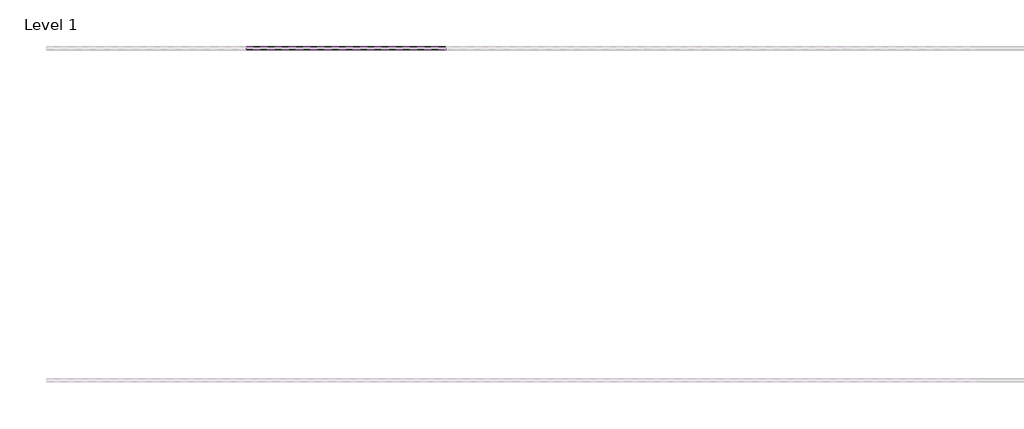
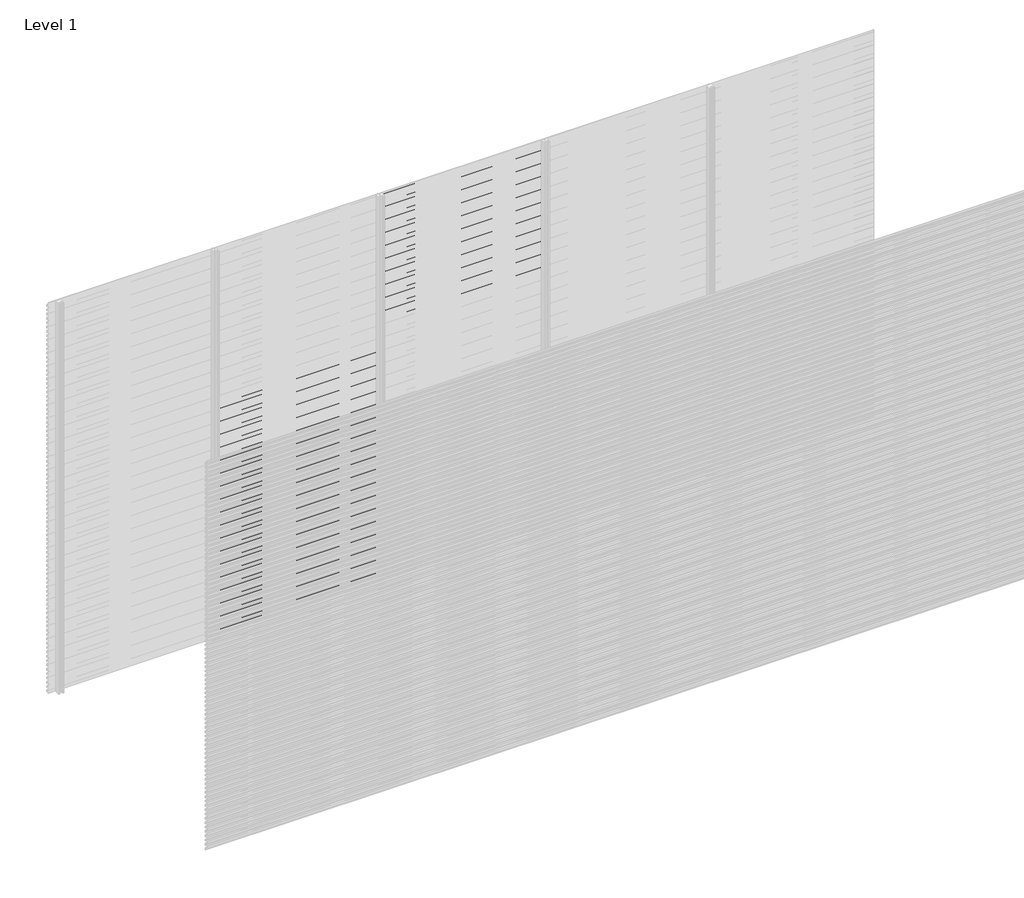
# One storey, part 76 of 507: 84 proxies.
"""IFC4 building model written with IfcOpenShell, lengths in millimetres."""

from ifc_helpers import new_model, si_unit, frame, origin, place, context, project, spatial, polyline, outline, extrude, element, save

model = new_model("IFC4")

# Units and contexts
model_context = context("Model", 3, world=origin())
ifc_project = project(units=[si_unit("LENGTHUNIT", "METRE", prefix="MILLI")], contexts=[model_context])

# Site, building, storey
site = spatial("IfcSite", under=ifc_project)
building = spatial("IfcBuilding", under=site)
storey = spatial("IfcBuildingStorey", under=building, Name="Level 1", Elevation=0.0)

# Proxies
placement = place(None, origin())
element("IfcBuildingElementProxy", 1, Name="Wall Sweeps", at=placement, inside=storey, context=model_context, shape_type="SweptSolid", body=[
    extrude(outline(polyline([(59003.4540136, 1774.2), (59003.4540136, 1760.7), (59002.2040136, 1761.4216933), (59002.2040136, 1773.4782281), (58983.0540136, 1784.5345698), (58983.0540136, 1798.2), (58984.3040136, 1798.2), (58984.3040136, 1785.2562577), (59003.4540136, 1774.2)])), frame((46166.6208099, 0.0, 0.0), z_axis=(1.0, 0.0, 0.0), x_axis=(0.0, 1.0, 0.0)), (0.0, 0.0, 1.0), 1199.9999999),
])
element("IfcBuildingElementProxy", 2, Name="Wall Sweeps", at=placement, inside=storey, context=model_context, shape_type="SweptSolid", body=[
    extrude(outline(polyline([(59003.4540136, 1740.9), (59003.4540136, 1727.4), (59002.2040136, 1728.1216933), (59002.2040136, 1740.1782281), (58983.0540136, 1751.2345698), (58983.0540136, 1764.9), (58984.3040136, 1764.9), (58984.3040136, 1751.9562577), (59003.4540136, 1740.9)])), frame((46166.6208099, 0.0, 0.0), z_axis=(1.0, 0.0, 0.0), x_axis=(0.0, 1.0, 0.0)), (0.0, 0.0, 1.0), 1199.9999999),
])
element("IfcBuildingElementProxy", 3, Name="Wall Sweeps", at=placement, inside=storey, context=model_context, shape_type="SweptSolid", body=[
    extrude(outline(polyline([(59003.4540136, 1707.6), (59003.4540136, 1694.1), (59002.2040136, 1694.8216933), (59002.2040136, 1706.8782281), (58983.0540136, 1717.9345698), (58983.0540136, 1731.6), (58984.3040136, 1731.6), (58984.3040136, 1718.6562577), (59003.4540136, 1707.6)])), frame((46166.6208099, 0.0, 0.0), z_axis=(1.0, 0.0, 0.0), x_axis=(0.0, 1.0, 0.0)), (0.0, 0.0, 1.0), 1199.9999999),
])
element("IfcBuildingElementProxy", 4, Name="Wall Sweeps", at=placement, inside=storey, context=model_context, shape_type="SweptSolid", body=[
    extrude(outline(polyline([(59003.4540136, 1674.3), (59003.4540136, 1660.8), (59002.2040136, 1661.5216933), (59002.2040136, 1673.5782281), (58983.0540136, 1684.6345698), (58983.0540136, 1698.3), (58984.3040136, 1698.3), (58984.3040136, 1685.3562577), (59003.4540136, 1674.3)])), frame((46166.6208099, 0.0, 0.0), z_axis=(1.0, 0.0, 0.0), x_axis=(0.0, 1.0, 0.0)), (0.0, 0.0, 1.0), 1199.9999999),
])
element("IfcBuildingElementProxy", 5, Name="Wall Sweeps", at=placement, inside=storey, context=model_context, shape_type="SweptSolid", body=[
    extrude(outline(polyline([(59003.4540136, 1641.0), (59003.4540136, 1627.5), (59002.2040136, 1628.2216933), (59002.2040136, 1640.2782281), (58983.0540136, 1651.3345698), (58983.0540136, 1665.0), (58984.3040136, 1665.0), (58984.3040136, 1652.0562577), (59003.4540136, 1641.0)])), frame((46166.6208099, 0.0, 0.0), z_axis=(1.0, 0.0, 0.0), x_axis=(0.0, 1.0, 0.0)), (0.0, 0.0, 1.0), 1199.9999999),
])
element("IfcBuildingElementProxy", 6, Name="Wall Sweeps", at=placement, inside=storey, context=model_context, shape_type="SweptSolid", body=[
    extrude(outline(polyline([(59003.4540136, 1607.7), (59003.4540136, 1594.2), (59002.2040136, 1594.9216933), (59002.2040136, 1606.9782281), (58983.0540136, 1618.0345698), (58983.0540136, 1631.7), (58984.3040136, 1631.7), (58984.3040136, 1618.7562577), (59003.4540136, 1607.7)])), frame((46166.6208099, 0.0, 0.0), z_axis=(1.0, 0.0, 0.0), x_axis=(0.0, 1.0, 0.0)), (0.0, 0.0, 1.0), 1199.9999999),
])
element("IfcBuildingElementProxy", 7, Name="Wall Sweeps", at=placement, inside=storey, context=model_context, shape_type="SweptSolid", body=[
    extrude(outline(polyline([(59003.4540136, 1574.4), (59003.4540136, 1560.9), (59002.2040136, 1561.6216933), (59002.2040136, 1573.6782281), (58983.0540136, 1584.7345698), (58983.0540136, 1598.4), (58984.3040136, 1598.4), (58984.3040136, 1585.4562577), (59003.4540136, 1574.4)])), frame((46166.6208099, 0.0, 0.0), z_axis=(1.0, 0.0, 0.0), x_axis=(0.0, 1.0, 0.0)), (0.0, 0.0, 1.0), 1199.9999999),
])
element("IfcBuildingElementProxy", 8, Name="Wall Sweeps", at=placement, inside=storey, context=model_context, shape_type="SweptSolid", body=[
    extrude(outline(polyline([(59003.4540136, 1541.1), (59003.4540136, 1527.6), (59002.2040136, 1528.3216933), (59002.2040136, 1540.3782281), (58983.0540136, 1551.4345698), (58983.0540136, 1565.1), (58984.3040136, 1565.1), (58984.3040136, 1552.1562577), (59003.4540136, 1541.1)])), frame((46166.6208099, 0.0, 0.0), z_axis=(1.0, 0.0, 0.0), x_axis=(0.0, 1.0, 0.0)), (0.0, 0.0, 1.0), 1199.9999999),
])
element("IfcBuildingElementProxy", 9, Name="Wall Sweeps", at=placement, inside=storey, context=model_context, shape_type="SweptSolid", body=[
    extrude(outline(polyline([(59003.4540136, 1507.8), (59003.4540136, 1494.3), (59002.2040136, 1495.0216933), (59002.2040136, 1507.0782281), (58983.0540136, 1518.1345698), (58983.0540136, 1531.8), (58984.3040136, 1531.8), (58984.3040136, 1518.8562577), (59003.4540136, 1507.8)])), frame((46166.6208099, 0.0, 0.0), z_axis=(1.0, 0.0, 0.0), x_axis=(0.0, 1.0, 0.0)), (0.0, 0.0, 1.0), 1199.9999999),
])
element("IfcBuildingElementProxy", 10, Name="Wall Sweeps", at=placement, inside=storey, context=model_context, shape_type="SweptSolid", body=[
    extrude(outline(polyline([(59003.4540136, 1474.5), (59003.4540136, 1461.0), (59002.2040136, 1461.7216933), (59002.2040136, 1473.7782281), (58983.0540136, 1484.8345698), (58983.0540136, 1498.5), (58984.3040136, 1498.5), (58984.3040136, 1485.5562577), (59003.4540136, 1474.5)])), frame((46166.6208099, 0.0, 0.0), z_axis=(1.0, 0.0, 0.0), x_axis=(0.0, 1.0, 0.0)), (0.0, 0.0, 1.0), 1199.9999999),
])
element("IfcBuildingElementProxy", 11, Name="Wall Sweeps", at=placement, inside=storey, context=model_context, shape_type="SweptSolid", body=[
    extrude(outline(polyline([(59003.4540136, 1441.2), (59003.4540136, 1427.7), (59002.2040136, 1428.4216933), (59002.2040136, 1440.4782281), (58983.0540136, 1451.5345698), (58983.0540136, 1465.2), (58984.3040136, 1465.2), (58984.3040136, 1452.2562577), (59003.4540136, 1441.2)])), frame((46166.6208099, 0.0, 0.0), z_axis=(1.0, 0.0, 0.0), x_axis=(0.0, 1.0, 0.0)), (0.0, 0.0, 1.0), 1199.9999999),
])
element("IfcBuildingElementProxy", 12, Name="Wall Sweeps", at=placement, inside=storey, context=model_context, shape_type="SweptSolid", body=[
    extrude(outline(polyline([(59003.4540136, 1407.9), (59003.4540136, 1394.4), (59002.2040136, 1395.1216933), (59002.2040136, 1407.1782281), (58983.0540136, 1418.2345698), (58983.0540136, 1431.9), (58984.3040136, 1431.9), (58984.3040136, 1418.9562577), (59003.4540136, 1407.9)])), frame((46166.6208099, 0.0, 0.0), z_axis=(1.0, 0.0, 0.0), x_axis=(0.0, 1.0, 0.0)), (0.0, 0.0, 1.0), 1199.9999999),
])
element("IfcBuildingElementProxy", 13, Name="Wall Sweeps", at=placement, inside=storey, context=model_context, shape_type="SweptSolid", body=[
    extrude(outline(polyline([(59003.4540136, 1374.6), (59003.4540136, 1361.1), (59002.2040136, 1361.8216933), (59002.2040136, 1373.8782281), (58983.0540136, 1384.9345698), (58983.0540136, 1398.6), (58984.3040136, 1398.6), (58984.3040136, 1385.6562577), (59003.4540136, 1374.6)])), frame((46166.6208099, 0.0, 0.0), z_axis=(1.0, 0.0, 0.0), x_axis=(0.0, 1.0, 0.0)), (0.0, 0.0, 1.0), 1199.9999999),
])
element("IfcBuildingElementProxy", 14, Name="Wall Sweeps", at=placement, inside=storey, context=model_context, shape_type="SweptSolid", body=[
    extrude(outline(polyline([(59003.4540136, 1341.3), (59003.4540136, 1327.8), (59002.2040136, 1328.5216933), (59002.2040136, 1340.5782281), (58983.0540136, 1351.6345698), (58983.0540136, 1365.3), (58984.3040136, 1365.3), (58984.3040136, 1352.3562577), (59003.4540136, 1341.3)])), frame((46166.6208099, 0.0, 0.0), z_axis=(1.0, 0.0, 0.0), x_axis=(0.0, 1.0, 0.0)), (0.0, 0.0, 1.0), 1199.9999999),
])
element("IfcBuildingElementProxy", 15, Name="Wall Sweeps", at=placement, inside=storey, context=model_context, shape_type="SweptSolid", body=[
    extrude(outline(polyline([(59003.4540136, 1308.0), (59003.4540136, 1294.5), (59002.2040136, 1295.2216933), (59002.2040136, 1307.2782281), (58983.0540136, 1318.3345698), (58983.0540136, 1332.0), (58984.3040136, 1332.0), (58984.3040136, 1319.0562577), (59003.4540136, 1308.0)])), frame((46166.6208099, 0.0, 0.0), z_axis=(1.0, 0.0, 0.0), x_axis=(0.0, 1.0, 0.0)), (0.0, 0.0, 1.0), 1199.9999999),
])
element("IfcBuildingElementProxy", 16, Name="Wall Sweeps", at=placement, inside=storey, context=model_context, shape_type="SweptSolid", body=[
    extrude(outline(polyline([(59003.4540136, 1274.7), (59003.4540136, 1261.2), (59002.2040136, 1261.9216933), (59002.2040136, 1273.9782281), (58983.0540136, 1285.0345698), (58983.0540136, 1298.7), (58984.3040136, 1298.7), (58984.3040136, 1285.7562577), (59003.4540136, 1274.7)])), frame((46166.6208099, 0.0, 0.0), z_axis=(1.0, 0.0, 0.0), x_axis=(0.0, 1.0, 0.0)), (0.0, 0.0, 1.0), 1199.9999999),
])
element("IfcBuildingElementProxy", 17, Name="Wall Sweeps", at=placement, inside=storey, context=model_context, shape_type="SweptSolid", body=[
    extrude(outline(polyline([(59003.4540136, 1241.4), (59003.4540136, 1227.9), (59002.2040136, 1228.6216933), (59002.2040136, 1240.6782281), (58983.0540136, 1251.7345698), (58983.0540136, 1265.4), (58984.3040136, 1265.4), (58984.3040136, 1252.4562577), (59003.4540136, 1241.4)])), frame((46166.6208099, 0.0, 0.0), z_axis=(1.0, 0.0, 0.0), x_axis=(0.0, 1.0, 0.0)), (0.0, 0.0, 1.0), 1199.9999999),
])
element("IfcBuildingElementProxy", 18, Name="Wall Sweeps", at=placement, inside=storey, context=model_context, shape_type="SweptSolid", body=[
    extrude(outline(polyline([(59003.4540136, 1208.1), (59003.4540136, 1194.6), (59002.2040136, 1195.3216933), (59002.2040136, 1207.3782281), (58983.0540136, 1218.4345698), (58983.0540136, 1232.1), (58984.3040136, 1232.1), (58984.3040136, 1219.1562577), (59003.4540136, 1208.1)])), frame((46166.6208099, 0.0, 0.0), z_axis=(1.0, 0.0, 0.0), x_axis=(0.0, 1.0, 0.0)), (0.0, 0.0, 1.0), 1199.9999999),
])
element("IfcBuildingElementProxy", 19, Name="Wall Sweeps", at=placement, inside=storey, context=model_context, shape_type="SweptSolid", body=[
    extrude(outline(polyline([(59003.4540136, 1174.8), (59003.4540136, 1161.3), (59002.2040136, 1162.0216933), (59002.2040136, 1174.0782281), (58983.0540136, 1185.1345698), (58983.0540136, 1198.8), (58984.3040136, 1198.8), (58984.3040136, 1185.8562577), (59003.4540136, 1174.8)])), frame((46166.6208099, 0.0, 0.0), z_axis=(1.0, 0.0, 0.0), x_axis=(0.0, 1.0, 0.0)), (0.0, 0.0, 1.0), 1199.9999999),
])
element("IfcBuildingElementProxy", 20, Name="Wall Sweeps", at=placement, inside=storey, context=model_context, shape_type="SweptSolid", body=[
    extrude(outline(polyline([(59003.4540136, 1141.5), (59003.4540136, 1128.0), (59002.2040136, 1128.7216933), (59002.2040136, 1140.7782281), (58983.0540136, 1151.8345698), (58983.0540136, 1165.5), (58984.3040136, 1165.5), (58984.3040136, 1152.5562577), (59003.4540136, 1141.5)])), frame((46166.6208099, 0.0, 0.0), z_axis=(1.0, 0.0, 0.0), x_axis=(0.0, 1.0, 0.0)), (0.0, 0.0, 1.0), 1199.9999999),
])
element("IfcBuildingElementProxy", 21, Name="Wall Sweeps", at=placement, inside=storey, context=model_context, shape_type="SweptSolid", body=[
    extrude(outline(polyline([(59003.4540136, 1108.2), (59003.4540136, 1094.7), (59002.2040136, 1095.4216933), (59002.2040136, 1107.4782281), (58983.0540136, 1118.5345698), (58983.0540136, 1132.2), (58984.3040136, 1132.2), (58984.3040136, 1119.2562577), (59003.4540136, 1108.2)])), frame((46166.6208099, 0.0, 0.0), z_axis=(1.0, 0.0, 0.0), x_axis=(0.0, 1.0, 0.0)), (0.0, 0.0, 1.0), 1199.9999999),
])
element("IfcBuildingElementProxy", 22, Name="Wall Sweeps", at=placement, inside=storey, context=model_context, shape_type="SweptSolid", body=[
    extrude(outline(polyline([(59003.4540136, 1074.9), (59003.4540136, 1061.4), (59002.2040136, 1062.1216933), (59002.2040136, 1074.1782281), (58983.0540136, 1085.2345698), (58983.0540136, 1098.9), (58984.3040136, 1098.9), (58984.3040136, 1085.9562577), (59003.4540136, 1074.9)])), frame((46166.6208099, 0.0, 0.0), z_axis=(1.0, 0.0, 0.0), x_axis=(0.0, 1.0, 0.0)), (0.0, 0.0, 1.0), 1199.9999999),
])
element("IfcBuildingElementProxy", 23, Name="Wall Sweeps", at=placement, inside=storey, context=model_context, shape_type="SweptSolid", body=[
    extrude(outline(polyline([(59003.4540136, 1041.6), (59003.4540136, 1028.1), (59002.2040136, 1028.8216933), (59002.2040136, 1040.8782281), (58983.0540136, 1051.9345698), (58983.0540136, 1065.6), (58984.3040136, 1065.6), (58984.3040136, 1052.6562577), (59003.4540136, 1041.6)])), frame((46166.6208099, 0.0, 0.0), z_axis=(1.0, 0.0, 0.0), x_axis=(0.0, 1.0, 0.0)), (0.0, 0.0, 1.0), 1199.9999999),
])
element("IfcBuildingElementProxy", 24, Name="Wall Sweeps", at=placement, inside=storey, context=model_context, shape_type="SweptSolid", body=[
    extrude(outline(polyline([(59003.4540136, 1008.3), (59003.4540136, 994.8), (59002.2040136, 995.5216933), (59002.2040136, 1007.5782281), (58983.0540136, 1018.6345698), (58983.0540136, 1032.3), (58984.3040136, 1032.3), (58984.3040136, 1019.3562577), (59003.4540136, 1008.3)])), frame((46166.6208099, 0.0, 0.0), z_axis=(1.0, 0.0, 0.0), x_axis=(0.0, 1.0, 0.0)), (0.0, 0.0, 1.0), 1199.9999999),
])
element("IfcBuildingElementProxy", 25, Name="Wall Sweeps", at=placement, inside=storey, context=model_context, shape_type="SweptSolid", body=[
    extrude(outline(polyline([(59003.4540136, 975.0), (59003.4540136, 961.5), (59002.2040136, 962.2216933), (59002.2040136, 974.2782281), (58983.0540136, 985.3345698), (58983.0540136, 999.0), (58984.3040136, 999.0), (58984.3040136, 986.0562577), (59003.4540136, 975.0)])), frame((46166.6208099, 0.0, 0.0), z_axis=(1.0, 0.0, 0.0), x_axis=(0.0, 1.0, 0.0)), (0.0, 0.0, 1.0), 1199.9999999),
])
element("IfcBuildingElementProxy", 26, Name="Wall Sweeps", at=placement, inside=storey, context=model_context, shape_type="SweptSolid", body=[
    extrude(outline(polyline([(59003.4540136, 941.7), (59003.4540136, 928.2), (59002.2040136, 928.9216933), (59002.2040136, 940.9782281), (58983.0540136, 952.0345698), (58983.0540136, 965.7), (58984.3040136, 965.7), (58984.3040136, 952.7562577), (59003.4540136, 941.7)])), frame((46166.6208099, 0.0, 0.0), z_axis=(1.0, 0.0, 0.0), x_axis=(0.0, 1.0, 0.0)), (0.0, 0.0, 1.0), 1199.9999999),
])
element("IfcBuildingElementProxy", 27, Name="Wall Sweeps", at=placement, inside=storey, context=model_context, shape_type="SweptSolid", body=[
    extrude(outline(polyline([(59003.4540136, 908.4), (59003.4540136, 894.9), (59002.2040136, 895.6216933), (59002.2040136, 907.6782281), (58983.0540136, 918.7345698), (58983.0540136, 932.4), (58984.3040136, 932.4), (58984.3040136, 919.4562577), (59003.4540136, 908.4)])), frame((46166.6208099, 0.0, 0.0), z_axis=(1.0, 0.0, 0.0), x_axis=(0.0, 1.0, 0.0)), (0.0, 0.0, 1.0), 1199.9999999),
])
element("IfcBuildingElementProxy", 28, Name="Wall Sweeps", at=placement, inside=storey, context=model_context, shape_type="SweptSolid", body=[
    extrude(outline(polyline([(59003.4540136, 875.1), (59003.4540136, 861.6), (59002.2040136, 862.3216933), (59002.2040136, 874.3782281), (58983.0540136, 885.4345698), (58983.0540136, 899.1), (58984.3040136, 899.1), (58984.3040136, 886.1562577), (59003.4540136, 875.1)])), frame((46166.6208099, 0.0, 0.0), z_axis=(1.0, 0.0, 0.0), x_axis=(0.0, 1.0, 0.0)), (0.0, 0.0, 1.0), 1199.9999999),
])
element("IfcBuildingElementProxy", 29, Name="Wall Sweeps", at=placement, inside=storey, context=model_context, shape_type="SweptSolid", body=[
    extrude(outline(polyline([(59003.4540136, 841.8), (59003.4540136, 828.3), (59002.2040136, 829.0216933), (59002.2040136, 841.0782281), (58983.0540136, 852.1345698), (58983.0540136, 865.8), (58984.3040136, 865.8), (58984.3040136, 852.8562577), (59003.4540136, 841.8)])), frame((46166.6208099, 0.0, 0.0), z_axis=(1.0, 0.0, 0.0), x_axis=(0.0, 1.0, 0.0)), (0.0, 0.0, 1.0), 1199.9999999),
])
element("IfcBuildingElementProxy", 30, Name="Wall Sweeps", at=placement, inside=storey, context=model_context, shape_type="SweptSolid", body=[
    extrude(outline(polyline([(59003.4540136, 808.5), (59003.4540136, 795.0), (59002.2040136, 795.7216933), (59002.2040136, 807.7782281), (58983.0540136, 818.8345698), (58983.0540136, 832.5), (58984.3040136, 832.5), (58984.3040136, 819.5562577), (59003.4540136, 808.5)])), frame((46166.6208099, 0.0, 0.0), z_axis=(1.0, 0.0, 0.0), x_axis=(0.0, 1.0, 0.0)), (0.0, 0.0, 1.0), 1199.9999999),
])
element("IfcBuildingElementProxy", 31, Name="Wall Sweeps", at=placement, inside=storey, context=model_context, shape_type="SweptSolid", body=[
    extrude(outline(polyline([(59003.4540136, 775.2), (59003.4540136, 761.7), (59002.2040136, 762.4216933), (59002.2040136, 774.4782281), (58983.0540136, 785.5345698), (58983.0540136, 799.2), (58984.3040136, 799.2), (58984.3040136, 786.2562577), (59003.4540136, 775.2)])), frame((46166.6208099, 0.0, 0.0), z_axis=(1.0, 0.0, 0.0), x_axis=(0.0, 1.0, 0.0)), (0.0, 0.0, 1.0), 1199.9999999),
])
element("IfcBuildingElementProxy", 32, Name="Wall Sweeps", at=placement, inside=storey, context=model_context, shape_type="SweptSolid", body=[
    extrude(outline(polyline([(59003.4540136, 741.9), (59003.4540136, 728.4), (59002.2040136, 729.1216933), (59002.2040136, 741.1782281), (58983.0540136, 752.2345698), (58983.0540136, 765.9), (58984.3040136, 765.9), (58984.3040136, 752.9562577), (59003.4540136, 741.9)])), frame((46166.6208099, 0.0, 0.0), z_axis=(1.0, 0.0, 0.0), x_axis=(0.0, 1.0, 0.0)), (0.0, 0.0, 1.0), 1199.9999999),
])
element("IfcBuildingElementProxy", 33, Name="Wall Sweeps", at=placement, inside=storey, context=model_context, shape_type="SweptSolid", body=[
    extrude(outline(polyline([(59003.4540136, 708.6), (59003.4540136, 695.1), (59002.2040136, 695.8216933), (59002.2040136, 707.8782281), (58983.0540136, 718.9345698), (58983.0540136, 732.6), (58984.3040136, 732.6), (58984.3040136, 719.6562577), (59003.4540136, 708.6)])), frame((46166.6208099, 0.0, 0.0), z_axis=(1.0, 0.0, 0.0), x_axis=(0.0, 1.0, 0.0)), (0.0, 0.0, 1.0), 1199.9999999),
])
element("IfcBuildingElementProxy", 34, Name="Wall Sweeps", at=placement, inside=storey, context=model_context, shape_type="SweptSolid", body=[
    extrude(outline(polyline([(59003.4540136, 675.3), (59003.4540136, 661.8), (59002.2040136, 662.5216933), (59002.2040136, 674.5782281), (58983.0540136, 685.6345698), (58983.0540136, 699.3), (58984.3040136, 699.3), (58984.3040136, 686.3562577), (59003.4540136, 675.3)])), frame((46166.6208099, 0.0, 0.0), z_axis=(1.0, 0.0, 0.0), x_axis=(0.0, 1.0, 0.0)), (0.0, 0.0, 1.0), 1199.9999999),
])
element("IfcBuildingElementProxy", 35, Name="Wall Sweeps", at=placement, inside=storey, context=model_context, shape_type="SweptSolid", body=[
    extrude(outline(polyline([(59003.4540136, 642.0), (59003.4540136, 628.5), (59002.2040136, 629.2216933), (59002.2040136, 641.2782281), (58983.0540136, 652.3345698), (58983.0540136, 666.0), (58984.3040136, 666.0), (58984.3040136, 653.0562577), (59003.4540136, 642.0)])), frame((46166.6208099, 0.0, 0.0), z_axis=(1.0, 0.0, 0.0), x_axis=(0.0, 1.0, 0.0)), (0.0, 0.0, 1.0), 1199.9999999),
])
element("IfcBuildingElementProxy", 36, Name="Wall Sweeps", at=placement, inside=storey, context=model_context, shape_type="SweptSolid", body=[
    extrude(outline(polyline([(59003.4540136, 608.7), (59003.4540136, 595.2), (59002.2040136, 595.9216933), (59002.2040136, 607.9782281), (58983.0540136, 619.0345698), (58983.0540136, 632.7), (58984.3040136, 632.7), (58984.3040136, 619.7562577), (59003.4540136, 608.7)])), frame((46166.6208099, 0.0, 0.0), z_axis=(1.0, 0.0, 0.0), x_axis=(0.0, 1.0, 0.0)), (0.0, 0.0, 1.0), 1199.9999999),
])
element("IfcBuildingElementProxy", 37, Name="Wall Sweeps", at=placement, inside=storey, context=model_context, shape_type="SweptSolid", body=[
    extrude(outline(polyline([(59003.4540136, 575.4), (59003.4540136, 561.9), (59002.2040136, 562.6216933), (59002.2040136, 574.6782281), (58983.0540136, 585.7345698), (58983.0540136, 599.4), (58984.3040136, 599.4), (58984.3040136, 586.4562577), (59003.4540136, 575.4)])), frame((46166.6208099, 0.0, 0.0), z_axis=(1.0, 0.0, 0.0), x_axis=(0.0, 1.0, 0.0)), (0.0, 0.0, 1.0), 1199.9999999),
])
element("IfcBuildingElementProxy", 38, Name="Wall Sweeps", at=placement, inside=storey, context=model_context, shape_type="SweptSolid", body=[
    extrude(outline(polyline([(59003.4540136, 542.1), (59003.4540136, 528.6), (59002.2040136, 529.3216933), (59002.2040136, 541.3782281), (58983.0540136, 552.4345698), (58983.0540136, 566.1), (58984.3040136, 566.1), (58984.3040136, 553.1562577), (59003.4540136, 542.1)])), frame((46166.6208099, 0.0, 0.0), z_axis=(1.0, 0.0, 0.0), x_axis=(0.0, 1.0, 0.0)), (0.0, 0.0, 1.0), 1199.9999999),
])
element("IfcBuildingElementProxy", 39, Name="Wall Sweeps", at=placement, inside=storey, context=model_context, shape_type="SweptSolid", body=[
    extrude(outline(polyline([(59003.4540136, 508.8), (59003.4540136, 495.3), (59002.2040136, 496.0216933), (59002.2040136, 508.0782281), (58983.0540136, 519.1345698), (58983.0540136, 532.8), (58984.3040136, 532.8), (58984.3040136, 519.8562577), (59003.4540136, 508.8)])), frame((46166.6208099, 0.0, 0.0), z_axis=(1.0, 0.0, 0.0), x_axis=(0.0, 1.0, 0.0)), (0.0, 0.0, 1.0), 1199.9999999),
])
element("IfcBuildingElementProxy", 40, Name="Wall Sweeps", at=placement, inside=storey, context=model_context, shape_type="SweptSolid", body=[
    extrude(outline(polyline([(59003.4540136, 475.5), (59003.4540136, 462.0), (59002.2040136, 462.7216933), (59002.2040136, 474.7782281), (58983.0540136, 485.8345698), (58983.0540136, 499.5), (58984.3040136, 499.5), (58984.3040136, 486.5562577), (59003.4540136, 475.5)])), frame((46166.6208099, 0.0, 0.0), z_axis=(1.0, 0.0, 0.0), x_axis=(0.0, 1.0, 0.0)), (0.0, 0.0, 1.0), 1199.9999999),
])
element("IfcBuildingElementProxy", 41, Name="Wall Sweeps", at=placement, inside=storey, context=model_context, shape_type="SweptSolid", body=[
    extrude(outline(polyline([(59003.4540136, 442.2), (59003.4540136, 428.7), (59002.2040136, 429.4216933), (59002.2040136, 441.4782281), (58983.0540136, 452.5345698), (58983.0540136, 466.2), (58984.3040136, 466.2), (58984.3040136, 453.2562577), (59003.4540136, 442.2)])), frame((46166.6208099, 0.0, 0.0), z_axis=(1.0, 0.0, 0.0), x_axis=(0.0, 1.0, 0.0)), (0.0, 0.0, 1.0), 1199.9999999),
])
element("IfcBuildingElementProxy", 42, Name="Wall Sweeps", at=placement, inside=storey, context=model_context, shape_type="SweptSolid", body=[
    extrude(outline(polyline([(59003.4540136, 408.9), (59003.4540136, 395.4), (59002.2040136, 396.1216933), (59002.2040136, 408.1782281), (58983.0540136, 419.2345698), (58983.0540136, 432.9), (58984.3040136, 432.9), (58984.3040136, 419.9562577), (59003.4540136, 408.9)])), frame((46166.6208099, 0.0, 0.0), z_axis=(1.0, 0.0, 0.0), x_axis=(0.0, 1.0, 0.0)), (0.0, 0.0, 1.0), 1199.9999999),
])
element("IfcBuildingElementProxy", 43, Name="Wall Sweeps", at=placement, inside=storey, context=model_context, shape_type="SweptSolid", body=[
    extrude(outline(polyline([(59003.4540136, 375.6), (59003.4540136, 362.1), (59002.2040136, 362.8216933), (59002.2040136, 374.8782281), (58983.0540136, 385.9345698), (58983.0540136, 399.6), (58984.3040136, 399.6), (58984.3040136, 386.6562577), (59003.4540136, 375.6)])), frame((46166.6208099, 0.0, 0.0), z_axis=(1.0, 0.0, 0.0), x_axis=(0.0, 1.0, 0.0)), (0.0, 0.0, 1.0), 1199.9999999),
])
element("IfcBuildingElementProxy", 44, Name="Wall Sweeps", at=placement, inside=storey, context=model_context, shape_type="SweptSolid", body=[
    extrude(outline(polyline([(59003.4540136, 342.3), (59003.4540136, 328.8), (59002.2040136, 329.5216933), (59002.2040136, 341.5782281), (58983.0540136, 352.6345698), (58983.0540136, 366.3), (58984.3040136, 366.3), (58984.3040136, 353.3562577), (59003.4540136, 342.3)])), frame((46166.6208099, 0.0, 0.0), z_axis=(1.0, 0.0, 0.0), x_axis=(0.0, 1.0, 0.0)), (0.0, 0.0, 1.0), 1199.9999999),
])
element("IfcBuildingElementProxy", 45, Name="Wall Sweeps", at=placement, inside=storey, context=model_context, shape_type="SweptSolid", body=[
    extrude(outline(polyline([(59003.4540136, 309.0), (59003.4540136, 295.5), (59002.2040136, 296.2216933), (59002.2040136, 308.2782281), (58983.0540136, 319.3345698), (58983.0540136, 333.0), (58984.3040136, 333.0), (58984.3040136, 320.0562577), (59003.4540136, 309.0)])), frame((46166.6208099, 0.0, 0.0), z_axis=(1.0, 0.0, 0.0), x_axis=(0.0, 1.0, 0.0)), (0.0, 0.0, 1.0), 1199.9999999),
])
element("IfcBuildingElementProxy", 46, Name="Wall Sweeps", at=placement, inside=storey, context=model_context, shape_type="SweptSolid", body=[
    extrude(outline(polyline([(59003.4540136, 275.7), (59003.4540136, 262.2), (59002.2040136, 262.9216933), (59002.2040136, 274.9782281), (58983.0540136, 286.0345698), (58983.0540136, 299.7), (58984.3040136, 299.7), (58984.3040136, 286.7562577), (59003.4540136, 275.7)])), frame((46166.6208099, 0.0, 0.0), z_axis=(1.0, 0.0, 0.0), x_axis=(0.0, 1.0, 0.0)), (0.0, 0.0, 1.0), 1199.9999999),
])
element("IfcBuildingElementProxy", 47, Name="Wall Sweeps", at=placement, inside=storey, context=model_context, shape_type="SweptSolid", body=[
    extrude(outline(polyline([(59003.4540136, 242.4), (59003.4540136, 228.9), (59002.2040136, 229.6216933), (59002.2040136, 241.6782281), (58983.0540136, 252.7345698), (58983.0540136, 266.4), (58984.3040136, 266.4), (58984.3040136, 253.4562577), (59003.4540136, 242.4)])), frame((46166.6208099, 0.0, 0.0), z_axis=(1.0, 0.0, 0.0), x_axis=(0.0, 1.0, 0.0)), (0.0, 0.0, 1.0), 1199.9999999),
])
element("IfcBuildingElementProxy", 48, Name="Wall Sweeps", at=placement, inside=storey, context=model_context, shape_type="SweptSolid", body=[
    extrude(outline(polyline([(59003.4540136, 209.1), (59003.4540136, 195.6), (59002.2040136, 196.3216933), (59002.2040136, 208.3782281), (58983.0540136, 219.4345698), (58983.0540136, 233.1), (58984.3040136, 233.1), (58984.3040136, 220.1562577), (59003.4540136, 209.1)])), frame((46166.6208099, 0.0, 0.0), z_axis=(1.0, 0.0, 0.0), x_axis=(0.0, 1.0, 0.0)), (0.0, 0.0, 1.0), 1199.9999999),
])
element("IfcBuildingElementProxy", 49, Name="Wall Sweeps", at=placement, inside=storey, context=model_context, shape_type="SweptSolid", body=[
    extrude(outline(polyline([(59003.4540136, 175.8), (59003.4540136, 162.3), (59002.2040136, 163.0216933), (59002.2040136, 175.0782281), (58983.0540136, 186.1345698), (58983.0540136, 199.8), (58984.3040136, 199.8), (58984.3040136, 186.8562577), (59003.4540136, 175.8)])), frame((46166.6208099, 0.0, 0.0), z_axis=(1.0, 0.0, 0.0), x_axis=(0.0, 1.0, 0.0)), (0.0, 0.0, 1.0), 1199.9999999),
])
element("IfcBuildingElementProxy", 50, Name="Wall Sweeps", at=placement, inside=storey, context=model_context, shape_type="SweptSolid", body=[
    extrude(outline(polyline([(59003.4540136, 142.5), (59003.4540136, 129.0), (59002.2040136, 129.7216933), (59002.2040136, 141.7782281), (58983.0540136, 152.8345698), (58983.0540136, 166.5), (58984.3040136, 166.5), (58984.3040136, 153.5562577), (59003.4540136, 142.5)])), frame((46166.6208099, 0.0, 0.0), z_axis=(1.0, 0.0, 0.0), x_axis=(0.0, 1.0, 0.0)), (0.0, 0.0, 1.0), 1199.9999999),
])
element("IfcBuildingElementProxy", 51, Name="Wall Sweeps", at=placement, inside=storey, context=model_context, shape_type="SweptSolid", body=[
    extrude(outline(polyline([(59003.4540136, 109.2), (59003.4540136, 95.7), (59002.2040136, 96.4216933), (59002.2040136, 108.4782281), (58983.0540136, 119.5345698), (58983.0540136, 133.2), (58984.3040136, 133.2), (58984.3040136, 120.2562577), (59003.4540136, 109.2)])), frame((46166.6208099, 0.0, 0.0), z_axis=(1.0, 0.0, 0.0), x_axis=(0.0, 1.0, 0.0)), (0.0, 0.0, 1.0), 1199.9999999),
])
element("IfcBuildingElementProxy", 52, Name="Wall Sweeps", at=placement, inside=storey, context=model_context, shape_type="SweptSolid", body=[
    extrude(outline(polyline([(59003.4540136, 75.9), (59003.4540136, 62.4), (59002.2040136, 63.1216933), (59002.2040136, 75.1782281), (58983.0540136, 86.2345698), (58983.0540136, 99.9), (58984.3040136, 99.9), (58984.3040136, 86.9562577), (59003.4540136, 75.9)])), frame((46166.6208099, 0.0, 0.0), z_axis=(1.0, 0.0, 0.0), x_axis=(0.0, 1.0, 0.0)), (0.0, 0.0, 1.0), 1199.9999999),
])
element("IfcBuildingElementProxy", 53, Name="Wall Sweeps", at=placement, inside=storey, context=model_context, shape_type="SweptSolid", body=[
    extrude(outline(polyline([(59003.4540136, 42.6), (59003.4540136, 29.1), (59002.2040136, 29.8216933), (59002.2040136, 41.8782281), (58983.0540136, 52.9345698), (58983.0540136, 66.6), (58984.3040136, 66.6), (58984.3040136, 53.6562577), (59003.4540136, 42.6)])), frame((46166.6208099, 0.0, 0.0), z_axis=(1.0, 0.0, 0.0), x_axis=(0.0, 1.0, 0.0)), (0.0, 0.0, 1.0), 1199.9999999),
])
element("IfcBuildingElementProxy", 54, Name="Wall Sweeps", at=placement, inside=storey, context=model_context, shape_type="SweptSolid", body=[
    extrude(outline(polyline([(59003.4540136, 9.3), (59003.4540136, -4.2), (59002.2040136, -3.4783067), (59002.2040136, 8.5782281), (58983.0540136, 19.6345698), (58983.0540136, 33.3), (58984.3040136, 33.3), (58984.3040136, 20.3562577), (59003.4540136, 9.3)])), frame((46166.6208099, 0.0, 0.0), z_axis=(1.0, 0.0, 0.0), x_axis=(0.0, 1.0, 0.0)), (0.0, 0.0, 1.0), 1199.9999999),
])
element("IfcBuildingElementProxy", 55, Name="Wall Sweeps", at=placement, inside=storey, context=model_context, shape_type="SweptSolid", body=[
    extrude(outline(polyline([(59003.4540136, 2973.0), (59003.4540136, 2959.5), (59002.2040136, 2960.2216933), (59002.2040136, 2972.2782281), (58983.0540136, 2983.3345698), (58983.0540136, 2997.0), (58984.3040136, 2997.0), (58984.3040136, 2984.0562577), (59003.4540136, 2973.0)])), frame((47366.6208097, 0.0, 0.0), z_axis=(1.0, 0.0, 0.0), x_axis=(0.0, 1.0, 0.0)), (0.0, 0.0, 1.0), 1199.9999999),
])
element("IfcBuildingElementProxy", 56, Name="Wall Sweeps", at=placement, inside=storey, context=model_context, shape_type="SweptSolid", body=[
    extrude(outline(polyline([(59003.4540136, 2939.7), (59003.4540136, 2926.2), (59002.2040136, 2926.9216933), (59002.2040136, 2938.9782281), (58983.0540136, 2950.0345698), (58983.0540136, 2963.7), (58984.3040136, 2963.7), (58984.3040136, 2950.7562577), (59003.4540136, 2939.7)])), frame((47366.6208097, 0.0, 0.0), z_axis=(1.0, 0.0, 0.0), x_axis=(0.0, 1.0, 0.0)), (0.0, 0.0, 1.0), 1199.9999999),
])
element("IfcBuildingElementProxy", 57, Name="Wall Sweeps", at=placement, inside=storey, context=model_context, shape_type="SweptSolid", body=[
    extrude(outline(polyline([(59003.4540136, 2906.4), (59003.4540136, 2892.9), (59002.2040136, 2893.6216933), (59002.2040136, 2905.6782281), (58983.0540136, 2916.7345698), (58983.0540136, 2930.4), (58984.3040136, 2930.4), (58984.3040136, 2917.4562577), (59003.4540136, 2906.4)])), frame((47366.6208097, 0.0, 0.0), z_axis=(1.0, 0.0, 0.0), x_axis=(0.0, 1.0, 0.0)), (0.0, 0.0, 1.0), 1199.9999999),
])
element("IfcBuildingElementProxy", 58, Name="Wall Sweeps", at=placement, inside=storey, context=model_context, shape_type="SweptSolid", body=[
    extrude(outline(polyline([(59003.4540136, 2873.1), (59003.4540136, 2859.6), (59002.2040136, 2860.3216933), (59002.2040136, 2872.3782281), (58983.0540136, 2883.4345698), (58983.0540136, 2897.1), (58984.3040136, 2897.1), (58984.3040136, 2884.1562577), (59003.4540136, 2873.1)])), frame((47366.6208097, 0.0, 0.0), z_axis=(1.0, 0.0, 0.0), x_axis=(0.0, 1.0, 0.0)), (0.0, 0.0, 1.0), 1199.9999999),
])
element("IfcBuildingElementProxy", 59, Name="Wall Sweeps", at=placement, inside=storey, context=model_context, shape_type="SweptSolid", body=[
    extrude(outline(polyline([(59003.4540136, 2839.8), (59003.4540136, 2826.3), (59002.2040136, 2827.0216933), (59002.2040136, 2839.0782281), (58983.0540136, 2850.1345698), (58983.0540136, 2863.8), (58984.3040136, 2863.8), (58984.3040136, 2850.8562577), (59003.4540136, 2839.8)])), frame((47366.6208097, 0.0, 0.0), z_axis=(1.0, 0.0, 0.0), x_axis=(0.0, 1.0, 0.0)), (0.0, 0.0, 1.0), 1199.9999999),
])
element("IfcBuildingElementProxy", 60, Name="Wall Sweeps", at=placement, inside=storey, context=model_context, shape_type="SweptSolid", body=[
    extrude(outline(polyline([(59003.4540136, 2806.5), (59003.4540136, 2793.0), (59002.2040136, 2793.7216933), (59002.2040136, 2805.7782281), (58983.0540136, 2816.8345698), (58983.0540136, 2830.5), (58984.3040136, 2830.5), (58984.3040136, 2817.5562577), (59003.4540136, 2806.5)])), frame((47366.6208097, 0.0, 0.0), z_axis=(1.0, 0.0, 0.0), x_axis=(0.0, 1.0, 0.0)), (0.0, 0.0, 1.0), 1199.9999999),
])
element("IfcBuildingElementProxy", 61, Name="Wall Sweeps", at=placement, inside=storey, context=model_context, shape_type="SweptSolid", body=[
    extrude(outline(polyline([(59003.4540136, 2773.2), (59003.4540136, 2759.7), (59002.2040136, 2760.4216933), (59002.2040136, 2772.4782281), (58983.0540136, 2783.5345698), (58983.0540136, 2797.2), (58984.3040136, 2797.2), (58984.3040136, 2784.2562577), (59003.4540136, 2773.2)])), frame((47366.6208097, 0.0, 0.0), z_axis=(1.0, 0.0, 0.0), x_axis=(0.0, 1.0, 0.0)), (0.0, 0.0, 1.0), 1199.9999999),
])
element("IfcBuildingElementProxy", 62, Name="Wall Sweeps", at=placement, inside=storey, context=model_context, shape_type="SweptSolid", body=[
    extrude(outline(polyline([(59003.4540136, 2739.9), (59003.4540136, 2726.4), (59002.2040136, 2727.1216933), (59002.2040136, 2739.1782281), (58983.0540136, 2750.2345698), (58983.0540136, 2763.9), (58984.3040136, 2763.9), (58984.3040136, 2750.9562577), (59003.4540136, 2739.9)])), frame((47366.6208097, 0.0, 0.0), z_axis=(1.0, 0.0, 0.0), x_axis=(0.0, 1.0, 0.0)), (0.0, 0.0, 1.0), 1199.9999999),
])
element("IfcBuildingElementProxy", 63, Name="Wall Sweeps", at=placement, inside=storey, context=model_context, shape_type="SweptSolid", body=[
    extrude(outline(polyline([(59003.4540136, 2706.6), (59003.4540136, 2693.1), (59002.2040136, 2693.8216933), (59002.2040136, 2705.8782281), (58983.0540136, 2716.9345698), (58983.0540136, 2730.6), (58984.3040136, 2730.6), (58984.3040136, 2717.6562577), (59003.4540136, 2706.6)])), frame((47366.6208097, 0.0, 0.0), z_axis=(1.0, 0.0, 0.0), x_axis=(0.0, 1.0, 0.0)), (0.0, 0.0, 1.0), 1199.9999999),
])
element("IfcBuildingElementProxy", 64, Name="Wall Sweeps", at=placement, inside=storey, context=model_context, shape_type="SweptSolid", body=[
    extrude(outline(polyline([(59003.4540136, 2673.3), (59003.4540136, 2659.8), (59002.2040136, 2660.5216933), (59002.2040136, 2672.5782281), (58983.0540136, 2683.6345698), (58983.0540136, 2697.3), (58984.3040136, 2697.3), (58984.3040136, 2684.3562577), (59003.4540136, 2673.3)])), frame((47366.6208097, 0.0, 0.0), z_axis=(1.0, 0.0, 0.0), x_axis=(0.0, 1.0, 0.0)), (0.0, 0.0, 1.0), 1199.9999999),
])
element("IfcBuildingElementProxy", 65, Name="Wall Sweeps", at=placement, inside=storey, context=model_context, shape_type="SweptSolid", body=[
    extrude(outline(polyline([(59003.4540136, 2640.0), (59003.4540136, 2626.5), (59002.2040136, 2627.2216933), (59002.2040136, 2639.2782281), (58983.0540136, 2650.3345698), (58983.0540136, 2664.0), (58984.3040136, 2664.0), (58984.3040136, 2651.0562577), (59003.4540136, 2640.0)])), frame((47366.6208097, 0.0, 0.0), z_axis=(1.0, 0.0, 0.0), x_axis=(0.0, 1.0, 0.0)), (0.0, 0.0, 1.0), 1199.9999999),
])
element("IfcBuildingElementProxy", 66, Name="Wall Sweeps", at=placement, inside=storey, context=model_context, shape_type="SweptSolid", body=[
    extrude(outline(polyline([(59003.4540136, 2606.7), (59003.4540136, 2593.2), (59002.2040136, 2593.9216933), (59002.2040136, 2605.9782281), (58983.0540136, 2617.0345698), (58983.0540136, 2630.7), (58984.3040136, 2630.7), (58984.3040136, 2617.7562577), (59003.4540136, 2606.7)])), frame((47366.6208097, 0.0, 0.0), z_axis=(1.0, 0.0, 0.0), x_axis=(0.0, 1.0, 0.0)), (0.0, 0.0, 1.0), 1199.9999999),
])
element("IfcBuildingElementProxy", 67, Name="Wall Sweeps", at=placement, inside=storey, context=model_context, shape_type="SweptSolid", body=[
    extrude(outline(polyline([(59003.4540136, 2573.4), (59003.4540136, 2559.9), (59002.2040136, 2560.6216933), (59002.2040136, 2572.6782281), (58983.0540136, 2583.7345698), (58983.0540136, 2597.4), (58984.3040136, 2597.4), (58984.3040136, 2584.4562577), (59003.4540136, 2573.4)])), frame((47366.6208097, 0.0, 0.0), z_axis=(1.0, 0.0, 0.0), x_axis=(0.0, 1.0, 0.0)), (0.0, 0.0, 1.0), 1199.9999999),
])
element("IfcBuildingElementProxy", 68, Name="Wall Sweeps", at=placement, inside=storey, context=model_context, shape_type="SweptSolid", body=[
    extrude(outline(polyline([(59003.4540136, 2540.1), (59003.4540136, 2526.6), (59002.2040136, 2527.3216933), (59002.2040136, 2539.3782281), (58983.0540136, 2550.4345698), (58983.0540136, 2564.1), (58984.3040136, 2564.1), (58984.3040136, 2551.1562577), (59003.4540136, 2540.1)])), frame((47366.6208097, 0.0, 0.0), z_axis=(1.0, 0.0, 0.0), x_axis=(0.0, 1.0, 0.0)), (0.0, 0.0, 1.0), 1199.9999999),
])
element("IfcBuildingElementProxy", 69, Name="Wall Sweeps", at=placement, inside=storey, context=model_context, shape_type="SweptSolid", body=[
    extrude(outline(polyline([(59003.4540136, 2506.8), (59003.4540136, 2493.3), (59002.2040136, 2494.0216933), (59002.2040136, 2506.0782281), (58983.0540136, 2517.1345698), (58983.0540136, 2530.8), (58984.3040136, 2530.8), (58984.3040136, 2517.8562577), (59003.4540136, 2506.8)])), frame((47366.6208097, 0.0, 0.0), z_axis=(1.0, 0.0, 0.0), x_axis=(0.0, 1.0, 0.0)), (0.0, 0.0, 1.0), 1199.9999999),
])
element("IfcBuildingElementProxy", 70, Name="Wall Sweeps", at=placement, inside=storey, context=model_context, shape_type="SweptSolid", body=[
    extrude(outline(polyline([(59003.4540136, 2473.5), (59003.4540136, 2460.0), (59002.2040136, 2460.7216933), (59002.2040136, 2472.7782281), (58983.0540136, 2483.8345698), (58983.0540136, 2497.5), (58984.3040136, 2497.5), (58984.3040136, 2484.5562577), (59003.4540136, 2473.5)])), frame((47366.6208097, 0.0, 0.0), z_axis=(1.0, 0.0, 0.0), x_axis=(0.0, 1.0, 0.0)), (0.0, 0.0, 1.0), 1199.9999999),
])
element("IfcBuildingElementProxy", 71, Name="Wall Sweeps", at=placement, inside=storey, context=model_context, shape_type="SweptSolid", body=[
    extrude(outline(polyline([(59003.4540136, 2440.2), (59003.4540136, 2426.7), (59002.2040136, 2427.4216933), (59002.2040136, 2439.4782281), (58983.0540136, 2450.5345698), (58983.0540136, 2464.2), (58984.3040136, 2464.2), (58984.3040136, 2451.2562577), (59003.4540136, 2440.2)])), frame((47366.6208097, 0.0, 0.0), z_axis=(1.0, 0.0, 0.0), x_axis=(0.0, 1.0, 0.0)), (0.0, 0.0, 1.0), 1199.9999999),
])
element("IfcBuildingElementProxy", 72, Name="Wall Sweeps", at=placement, inside=storey, context=model_context, shape_type="SweptSolid", body=[
    extrude(outline(polyline([(59003.4540136, 2406.9), (59003.4540136, 2393.4), (59002.2040136, 2394.1216933), (59002.2040136, 2406.1782281), (58983.0540136, 2417.2345698), (58983.0540136, 2430.9), (58984.3040136, 2430.9), (58984.3040136, 2417.9562577), (59003.4540136, 2406.9)])), frame((47366.6208097, 0.0, 0.0), z_axis=(1.0, 0.0, 0.0), x_axis=(0.0, 1.0, 0.0)), (0.0, 0.0, 1.0), 1199.9999999),
])
element("IfcBuildingElementProxy", 73, Name="Wall Sweeps", at=placement, inside=storey, context=model_context, shape_type="SweptSolid", body=[
    extrude(outline(polyline([(59003.4540136, 2373.6), (59003.4540136, 2360.1), (59002.2040136, 2360.8216933), (59002.2040136, 2372.8782281), (58983.0540136, 2383.9345698), (58983.0540136, 2397.6), (58984.3040136, 2397.6), (58984.3040136, 2384.6562577), (59003.4540136, 2373.6)])), frame((47366.6208097, 0.0, 0.0), z_axis=(1.0, 0.0, 0.0), x_axis=(0.0, 1.0, 0.0)), (0.0, 0.0, 1.0), 1199.9999999),
])
element("IfcBuildingElementProxy", 74, Name="Wall Sweeps", at=placement, inside=storey, context=model_context, shape_type="SweptSolid", body=[
    extrude(outline(polyline([(59003.4540136, 2340.3), (59003.4540136, 2326.8), (59002.2040136, 2327.5216933), (59002.2040136, 2339.5782281), (58983.0540136, 2350.6345698), (58983.0540136, 2364.3), (58984.3040136, 2364.3), (58984.3040136, 2351.3562577), (59003.4540136, 2340.3)])), frame((47366.6208097, 0.0, 0.0), z_axis=(1.0, 0.0, 0.0), x_axis=(0.0, 1.0, 0.0)), (0.0, 0.0, 1.0), 1199.9999999),
])
element("IfcBuildingElementProxy", 75, Name="Wall Sweeps", at=placement, inside=storey, context=model_context, shape_type="SweptSolid", body=[
    extrude(outline(polyline([(59003.4540136, 2307.0), (59003.4540136, 2293.5), (59002.2040136, 2294.2216933), (59002.2040136, 2306.2782281), (58983.0540136, 2317.3345698), (58983.0540136, 2331.0), (58984.3040136, 2331.0), (58984.3040136, 2318.0562577), (59003.4540136, 2307.0)])), frame((47366.6208097, 0.0, 0.0), z_axis=(1.0, 0.0, 0.0), x_axis=(0.0, 1.0, 0.0)), (0.0, 0.0, 1.0), 1199.9999999),
])
element("IfcBuildingElementProxy", 76, Name="Wall Sweeps", at=placement, inside=storey, context=model_context, shape_type="SweptSolid", body=[
    extrude(outline(polyline([(59003.4540136, 2273.7), (59003.4540136, 2260.2), (59002.2040136, 2260.9216933), (59002.2040136, 2272.9782281), (58983.0540136, 2284.0345698), (58983.0540136, 2297.7), (58984.3040136, 2297.7), (58984.3040136, 2284.7562577), (59003.4540136, 2273.7)])), frame((47366.6208097, 0.0, 0.0), z_axis=(1.0, 0.0, 0.0), x_axis=(0.0, 1.0, 0.0)), (0.0, 0.0, 1.0), 1199.9999999),
])
element("IfcBuildingElementProxy", 77, Name="Wall Sweeps", at=placement, inside=storey, context=model_context, shape_type="SweptSolid", body=[
    extrude(outline(polyline([(59003.4540136, 2240.4), (59003.4540136, 2226.9), (59002.2040136, 2227.6216933), (59002.2040136, 2239.6782281), (58983.0540136, 2250.7345698), (58983.0540136, 2264.4), (58984.3040136, 2264.4), (58984.3040136, 2251.4562577), (59003.4540136, 2240.4)])), frame((47366.6208097, 0.0, 0.0), z_axis=(1.0, 0.0, 0.0), x_axis=(0.0, 1.0, 0.0)), (0.0, 0.0, 1.0), 1199.9999999),
])
element("IfcBuildingElementProxy", 78, Name="Wall Sweeps", at=placement, inside=storey, context=model_context, shape_type="SweptSolid", body=[
    extrude(outline(polyline([(59003.4540136, 2207.1), (59003.4540136, 2193.6), (59002.2040136, 2194.3216933), (59002.2040136, 2206.3782281), (58983.0540136, 2217.4345698), (58983.0540136, 2231.1), (58984.3040136, 2231.1), (58984.3040136, 2218.1562577), (59003.4540136, 2207.1)])), frame((47366.6208097, 0.0, 0.0), z_axis=(1.0, 0.0, 0.0), x_axis=(0.0, 1.0, 0.0)), (0.0, 0.0, 1.0), 1199.9999999),
])
element("IfcBuildingElementProxy", 79, Name="Wall Sweeps", at=placement, inside=storey, context=model_context, shape_type="SweptSolid", body=[
    extrude(outline(polyline([(59003.4540136, 2173.8), (59003.4540136, 2160.3), (59002.2040136, 2161.0216933), (59002.2040136, 2173.0782281), (58983.0540136, 2184.1345698), (58983.0540136, 2197.8), (58984.3040136, 2197.8), (58984.3040136, 2184.8562577), (59003.4540136, 2173.8)])), frame((47366.6208097, 0.0, 0.0), z_axis=(1.0, 0.0, 0.0), x_axis=(0.0, 1.0, 0.0)), (0.0, 0.0, 1.0), 1199.9999999),
])
element("IfcBuildingElementProxy", 80, Name="Wall Sweeps", at=placement, inside=storey, context=model_context, shape_type="SweptSolid", body=[
    extrude(outline(polyline([(59003.4540136, 2140.5), (59003.4540136, 2127.0), (59002.2040136, 2127.7216933), (59002.2040136, 2139.7782281), (58983.0540136, 2150.8345698), (58983.0540136, 2164.5), (58984.3040136, 2164.5), (58984.3040136, 2151.5562577), (59003.4540136, 2140.5)])), frame((47366.6208097, 0.0, 0.0), z_axis=(1.0, 0.0, 0.0), x_axis=(0.0, 1.0, 0.0)), (0.0, 0.0, 1.0), 1199.9999999),
])
element("IfcBuildingElementProxy", 81, Name="Wall Sweeps", at=placement, inside=storey, context=model_context, shape_type="SweptSolid", body=[
    extrude(outline(polyline([(59003.4540136, 2107.2), (59003.4540136, 2093.7), (59002.2040136, 2094.4216933), (59002.2040136, 2106.4782281), (58983.0540136, 2117.5345698), (58983.0540136, 2131.2), (58984.3040136, 2131.2), (58984.3040136, 2118.2562577), (59003.4540136, 2107.2)])), frame((47366.6208097, 0.0, 0.0), z_axis=(1.0, 0.0, 0.0), x_axis=(0.0, 1.0, 0.0)), (0.0, 0.0, 1.0), 1199.9999999),
])
element("IfcBuildingElementProxy", 82, Name="Wall Sweeps", at=placement, inside=storey, context=model_context, shape_type="SweptSolid", body=[
    extrude(outline(polyline([(59003.4540136, 2073.9), (59003.4540136, 2060.4), (59002.2040136, 2061.1216933), (59002.2040136, 2073.1782281), (58983.0540136, 2084.2345698), (58983.0540136, 2097.9), (58984.3040136, 2097.9), (58984.3040136, 2084.9562577), (59003.4540136, 2073.9)])), frame((47366.6208097, 0.0, 0.0), z_axis=(1.0, 0.0, 0.0), x_axis=(0.0, 1.0, 0.0)), (0.0, 0.0, 1.0), 1199.9999999),
])
element("IfcBuildingElementProxy", 83, Name="Wall Sweeps", at=placement, inside=storey, context=model_context, shape_type="SweptSolid", body=[
    extrude(outline(polyline([(59003.4540136, 2040.6), (59003.4540136, 2027.1), (59002.2040136, 2027.8216933), (59002.2040136, 2039.8782281), (58983.0540136, 2050.9345698), (58983.0540136, 2064.6), (58984.3040136, 2064.6), (58984.3040136, 2051.6562577), (59003.4540136, 2040.6)])), frame((47366.6208097, 0.0, 0.0), z_axis=(1.0, 0.0, 0.0), x_axis=(0.0, 1.0, 0.0)), (0.0, 0.0, 1.0), 1199.9999999),
])
element("IfcBuildingElementProxy", 84, Name="Wall Sweeps", at=placement, inside=storey, context=model_context, shape_type="SweptSolid", body=[
    extrude(outline(polyline([(59003.4540136, 2007.3), (59003.4540136, 1993.8), (59002.2040136, 1994.5216933), (59002.2040136, 2006.5782281), (58983.0540136, 2017.6345698), (58983.0540136, 2031.3), (58984.3040136, 2031.3), (58984.3040136, 2018.3562577), (59003.4540136, 2007.3)])), frame((47366.6208097, 0.0, 0.0), z_axis=(1.0, 0.0, 0.0), x_axis=(0.0, 1.0, 0.0)), (0.0, 0.0, 1.0), 1199.9999999),
])

save(model, "model.ifc")
